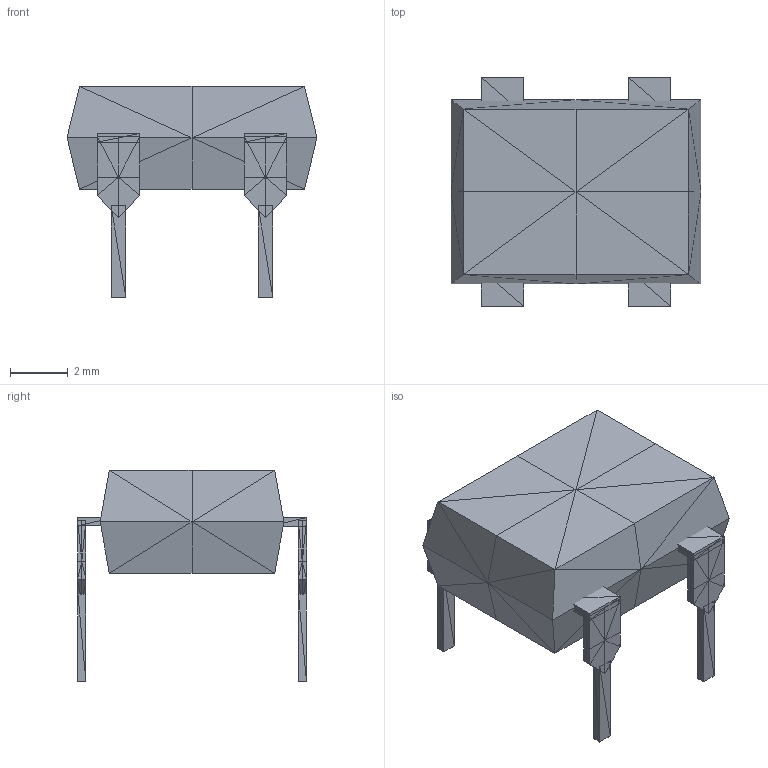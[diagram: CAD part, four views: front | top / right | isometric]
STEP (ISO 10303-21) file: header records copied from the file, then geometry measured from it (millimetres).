
FILE_DESCRIPTION(('HOOPS Exchange Step'),'2;1');
FILE_NAME('***.stp');
FILE_SCHEMA( ('AP242_MANAGED_MODEL_BASED_3D_ENGINEERING_MIM_LF {1 0 10303 442 1 1 4 }') );
Length unit declared in the file: inch
Products named in the file (6): DIP-4_2; DIP-4_3; DIP-4_4; DIP-4_5; DIP-4_6; DIP-4
Assembly tree (5 placements, depth 2):
  DIP-4
    DIP-4_2
    DIP-4_3
    DIP-4_4
    DIP-4_5
    DIP-4_6
Bounding box: 8.64 x 7.91 x 7.3 mm (x, y, z)
Volume: 180.6 mm3; surface area: 272.5 mm2
Topology: 9 solids, 13 shells, 336 faces, 504 edges, 194 vertices
Faces by surface type: plane 336
Entity records: 6872 total; most frequent: DIRECTION 1200, CARTESIAN_POINT 1046, ORIENTED_EDGE 1008, VECTOR 504, LINE 504, EDGE_CURVE 504, AXIS2_PLACEMENT_3D 348, PLANE 336
